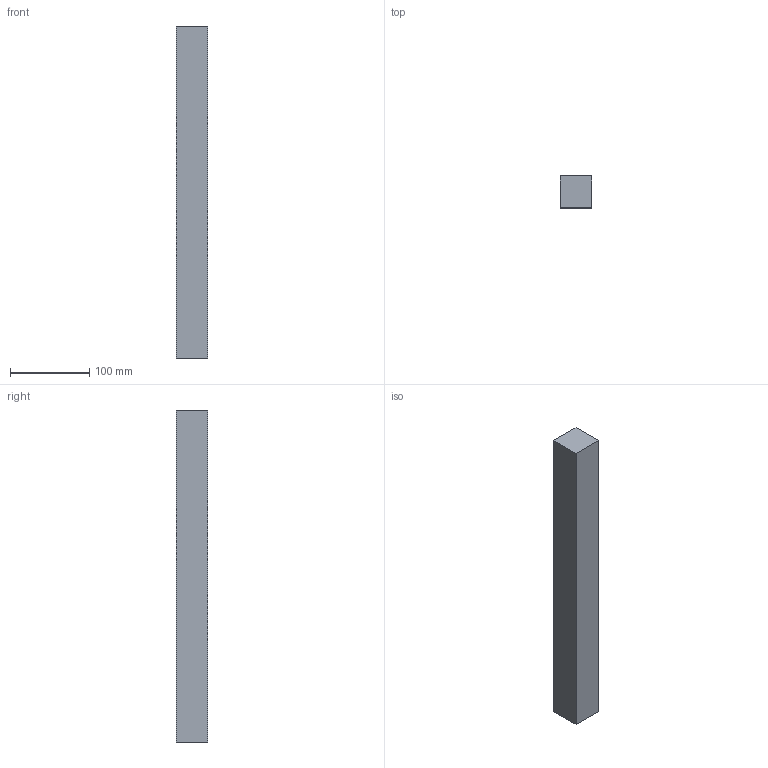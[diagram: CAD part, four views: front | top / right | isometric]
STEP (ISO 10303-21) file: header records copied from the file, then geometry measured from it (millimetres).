
FILE_DESCRIPTION(('Open CASCADE Model'),'2;1');
FILE_NAME('Open CASCADE Shape Model','2026-10-28T20:18:58',('Author'),( 'Open CASCADE'),'Open CASCADE STEP processor 7.8','Open CASCADE 7.8' ,'Unknown');
FILE_SCHEMA(('AUTOMOTIVE_DESIGN { 1 0 10303 214 1 1 1 1 }'));
Length unit declared in the file: millimetre
Products named in the file (1): Open CASCADE STEP translator 7.8 28
Bounding box: 40 x 40 x 420 mm (x, y, z)
Volume: 672000 mm3; surface area: 70400 mm2
Topology: 1 solids, 1 shells, 6 faces, 12 edges, 8 vertices
Faces by surface type: plane 6
Entity records: 322 total; most frequent: CARTESIAN_POINT 51, DIRECTION 50, LINE 36, VECTOR 36, ORIENTED_EDGE 24, PCURVE 24, DEFINITIONAL_REPRESENTATION 24, EDGE_CURVE 12
